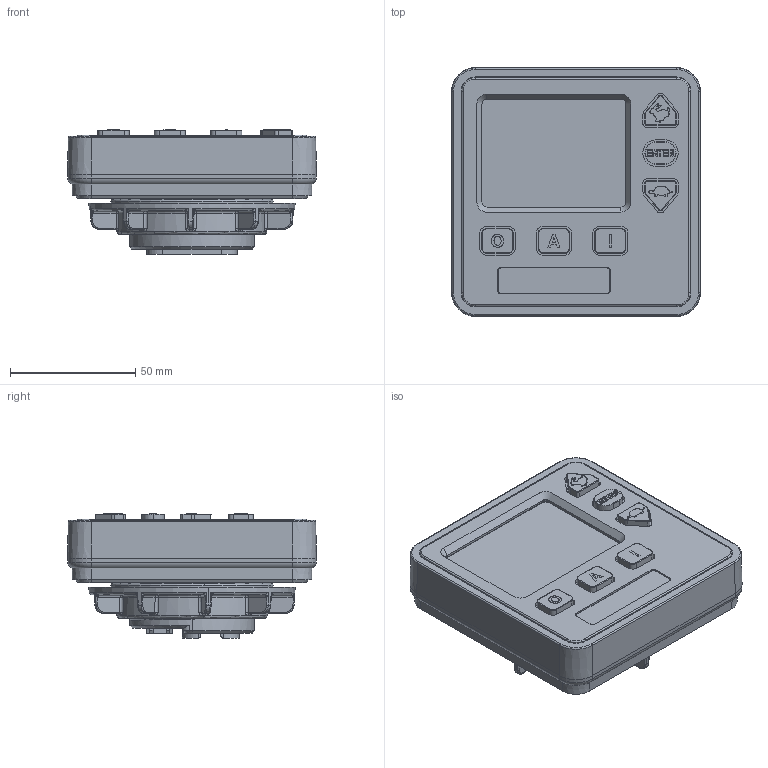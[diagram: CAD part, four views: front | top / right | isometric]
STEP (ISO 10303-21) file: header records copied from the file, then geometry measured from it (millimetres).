
FILE_DESCRIPTION (( 'STEP AP214' ), '1' );
FILE_NAME ('Cattron - Mini Sales Model.STEP', '2023-05-05T14:54:24', ( '' ), ( '' ), 'SwSTEP 2.0', 'SolidWorks 2022', '' );
FILE_SCHEMA (( 'AUTOMOTIVE_DESIGN' ));
Length unit declared in the file: millimetre
Products named in the file (3): Cattron - Mini Sales Model; Cattron - 2001356 - Locking Ring
Assembly tree (2 placements, depth 2):
  Cattron - Mini Sales Model
    Cattron - Mini Sales Model
    Cattron - 2001356 - Locking Ring
Bounding box: 99.48 x 99.48 x 49.6 mm (x, y, z)
Volume: 262219.5 mm3; surface area: 68497 mm2
Topology: 2 solids, 7 shells, 1451 faces, 3599 edges, 2246 vertices
Faces by surface type: plane 568, cylinder 323, bspline 316, torus 135, cone 72, sphere 37
Entity records: 60854 total; most frequent: CARTESIAN_POINT 25821, ORIENTED_EDGE 7162, DIRECTION 6234, EDGE_CURVE 3581, VERTEX_POINT 2246, AXIS2_PLACEMENT_3D 2202, LINE 1830, VECTOR 1830
